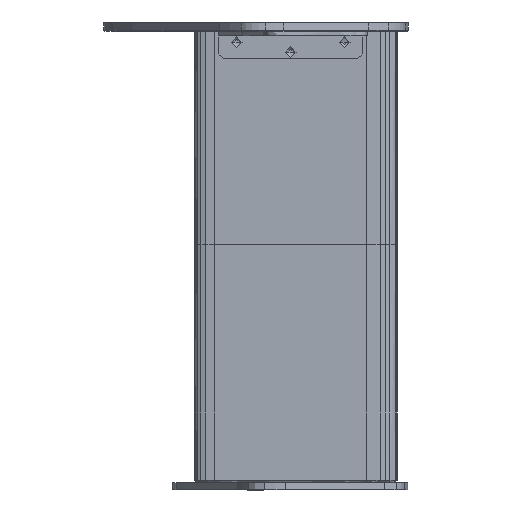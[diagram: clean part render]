
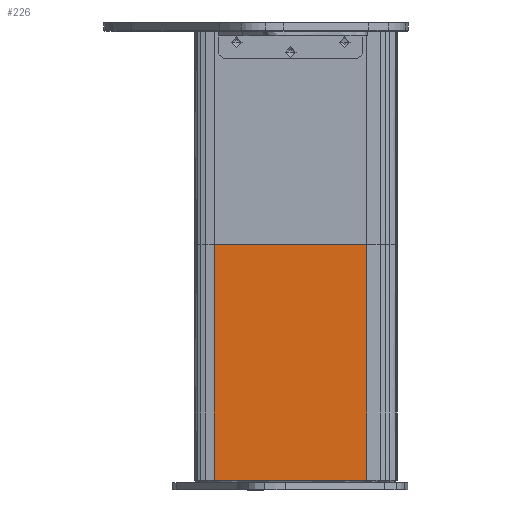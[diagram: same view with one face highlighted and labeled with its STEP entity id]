
A CAD part, front view. The second image highlights one B-rep face of the part: STEP entity #226.
In plain terms, the highlighted planar face has unit normal (0, -1, 0).
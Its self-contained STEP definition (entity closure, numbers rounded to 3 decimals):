
#226=ADVANCED_FACE('',(#510),#4253,.T.);
#510=FACE_OUTER_BOUND('',#802,.T.);
#802=EDGE_LOOP('',(#1586,#1587,#1588,#1589));
#1586=ORIENTED_EDGE('',*,*,#2400,.T.);
#1587=ORIENTED_EDGE('',*,*,#2580,.F.);
#1588=ORIENTED_EDGE('',*,*,#2498,.F.);
#1589=ORIENTED_EDGE('',*,*,#2579,.T.);
#2400=EDGE_CURVE('',#3682,#3681,#2959,.T.);
#2498=EDGE_CURVE('',#3752,#3754,#2993,.T.);
#2579=EDGE_CURVE('',#3752,#3682,#3020,.T.);
#2580=EDGE_CURVE('',#3754,#3681,#3021,.T.);
#2959=B_SPLINE_CURVE_WITH_KNOTS('',1,(#9042,#9043),.UNSPECIFIED.,.F.,.F.,
(2,2),(-169.348,0.),.UNSPECIFIED.);
#2993=B_SPLINE_CURVE_WITH_KNOTS('',1,(#9302,#9303),.UNSPECIFIED.,.F.,.F.,
(2,2),(0.,169.348),.UNSPECIFIED.);
#3020=B_SPLINE_CURVE_WITH_KNOTS('',1,(#9518,#9519),.UNSPECIFIED.,.F.,.F.,
(2,2),(0.,244.5),.UNSPECIFIED.);
#3021=B_SPLINE_CURVE_WITH_KNOTS('',1,(#9520,#9521),.UNSPECIFIED.,.F.,.F.,
(2,2),(0.,244.5),.UNSPECIFIED.);
#3681=VERTEX_POINT('',#8580);
#3682=VERTEX_POINT('',#8581);
#3752=VERTEX_POINT('',#8651);
#3754=VERTEX_POINT('',#8653);
#4253=PLANE('',#4306);
#4306=AXIS2_PLACEMENT_3D('',#8436,#4342,$);
#4342=DIRECTION('',(0.,-1.,0.));
#8436=CARTESIAN_POINT('',(-79.822,206.134,-49.313));
#8580=CARTESIAN_POINT('',(-62.875,206.134,264.5));
#8581=CARTESIAN_POINT('',(106.472,206.134,264.5));
#8651=CARTESIAN_POINT('',(106.472,206.134,3.));
#8653=CARTESIAN_POINT('',(-62.875,206.134,3.));
#9042=CARTESIAN_POINT('',(106.472,206.134,264.5));
#9043=CARTESIAN_POINT('',(-62.875,206.134,264.5));
#9302=CARTESIAN_POINT('',(106.472,206.134,3.));
#9303=CARTESIAN_POINT('',(-62.875,206.134,3.));
#9518=CARTESIAN_POINT('',(106.472,206.134,3.));
#9519=CARTESIAN_POINT('',(106.472,206.134,264.5));
#9520=CARTESIAN_POINT('',(-62.875,206.134,3.));
#9521=CARTESIAN_POINT('',(-62.875,206.134,264.5));
